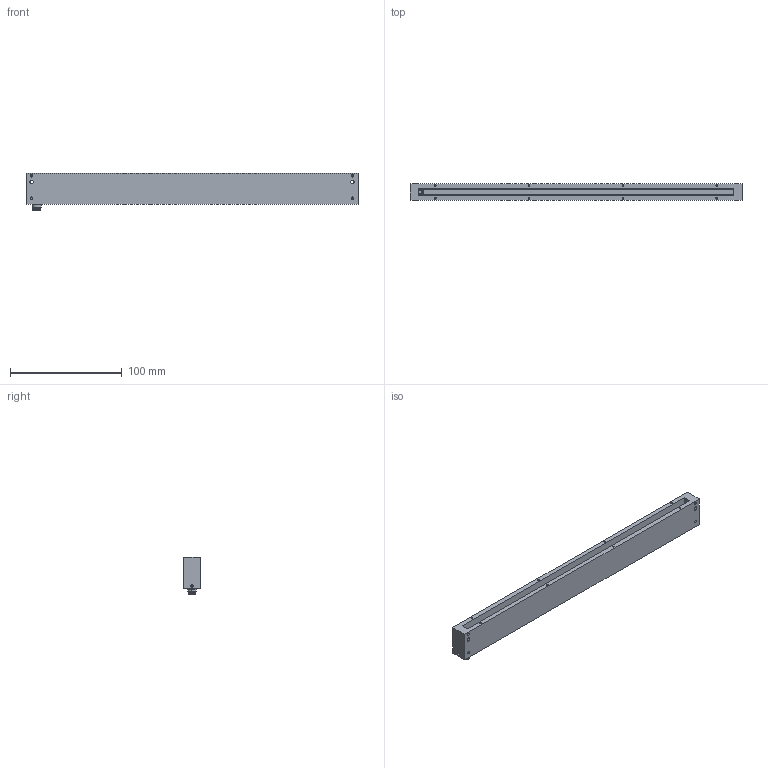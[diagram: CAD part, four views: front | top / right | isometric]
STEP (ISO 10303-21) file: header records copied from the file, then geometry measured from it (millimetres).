
FILE_DESCRIPTION(('STEP AP214'),'1');
FILE_NAME('5TE.stp','2019-08-29T15:14:10',(' '),(' '),'Spatial InterOp 3D',' ',' ');
FILE_SCHEMA(('AUTOMOTIVE_DESIGN { 1 0 10303 214 1 1 1 1 }'));
Length unit declared in the file: millimetre
Products named in the file (1): Volumenkörper
Bounding box: 297 x 15 x 33.95 mm (x, y, z)
Volume: 78302.6 mm3; surface area: 43869.7 mm2
Topology: 1 solids, 1 shells, 202 faces, 469 edges, 269 vertices
Faces by surface type: cylinder 94, plane 48, cone 42, sphere 16, torus 2
Entity records: 7210 total; most frequent: DIRECTION 1075, CARTESIAN_POINT 943, ORIENTED_EDGE 870, AXIS2_PLACEMENT_3D 441, EDGE_CURVE 435, VERTEX_POINT 269, EDGE_LOOP 250, CIRCLE 238
